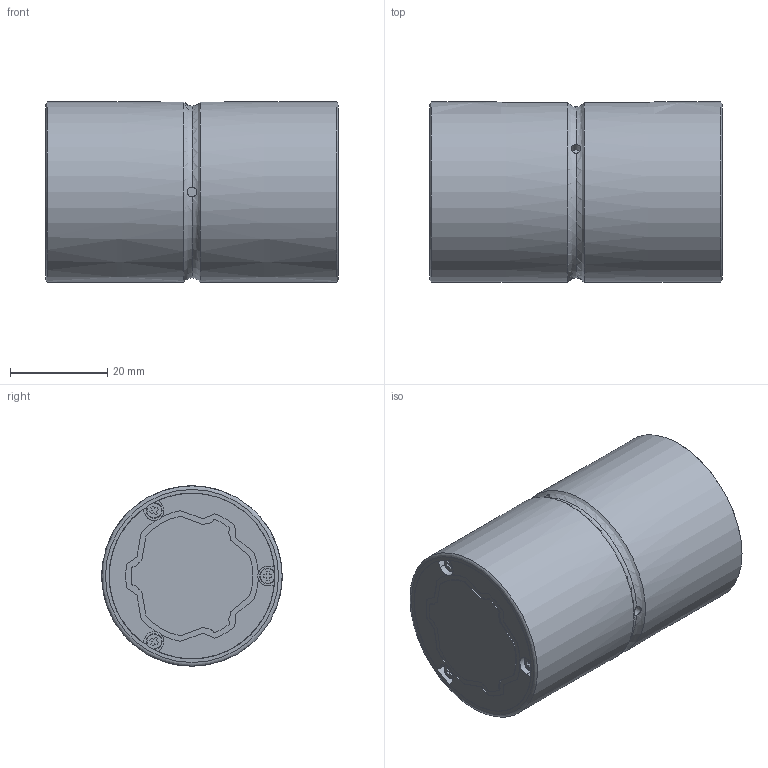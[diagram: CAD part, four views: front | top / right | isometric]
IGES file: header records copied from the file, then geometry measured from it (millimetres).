
Start section: Data from Parasolid IGES Translator 26.0.171, Copyright(c) 2006 Siemens PLM Software. All Rights Reserved.
Global section: file name: SLS25160(00).igs; native system: By Siemens PLM Incorporated; preprocessor: XPlus GENERIC/IGES 26.0.171; author: Noname; organization: Noname; date: 20240523.114633; units: millimetre
Bounding box: 60 x 37 x 37 mm (x, y, z)
Surface area: 19349.3 mm2 (no closed solid volume)
Topology: 0 solids, 0 shells, 301 faces, 1702 edges, 1693 vertices
Faces by surface type: extrusion 168, revolution 133
